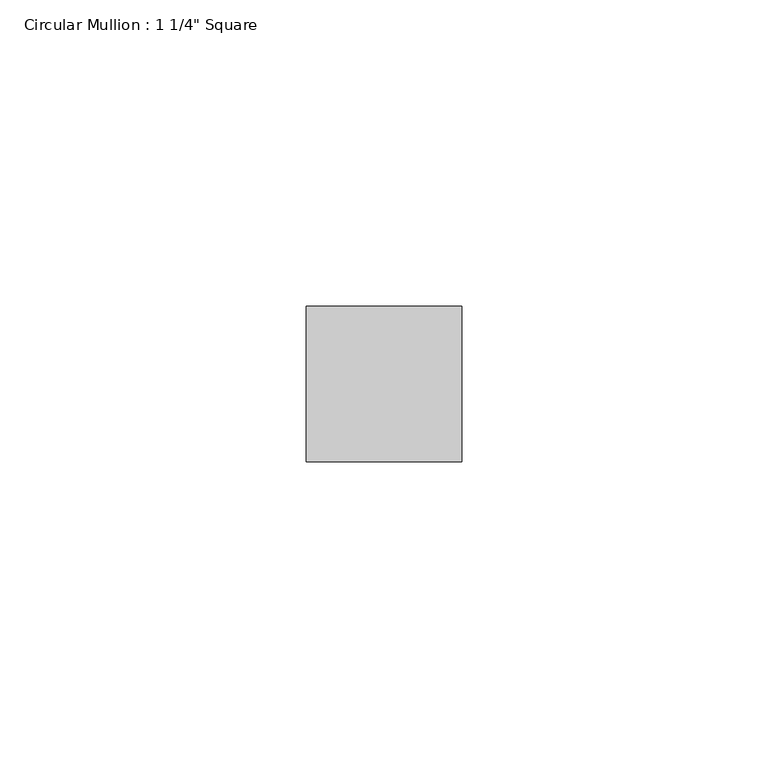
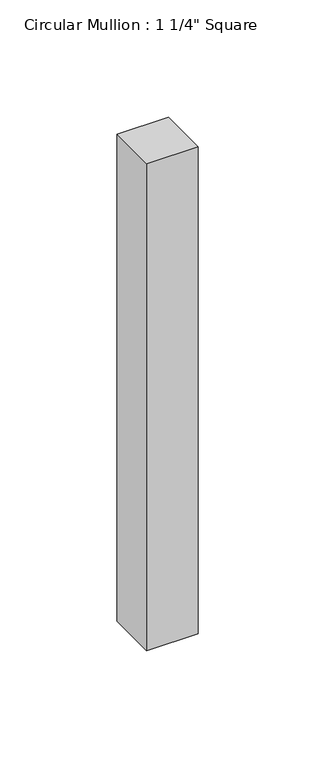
"""IFC4 building model written with IfcOpenShell, lengths in millimetres: member geometry."""

from ifc_helpers import new_model, si_unit, frame, origin, place, context, project, spatial, polyline, outline, extrude, source, transform, mapped, element, save


def member_27bd086b(model_context):
    return source(origin(), model_context, "Body", "SweptSolid", [
        extrude(outline(polyline([(12.7, 12.7), (12.7, -12.7), (-12.7, -12.7), (-12.7, 12.7), (12.7, 12.7)])), frame((0.0, 0.0, -253.9999997), z_axis=(0.0, 0.0, 1.0), x_axis=(1.0, 0.0, 0.0)), (0.0, 0.0, 1.0), 253.9999997),
    ])


if __name__ == "__main__":
    model = new_model("IFC4")
    model_context = context("Model", 3, world=origin())
    ifc_project = project(units=[si_unit("LENGTHUNIT", "METRE", prefix="MILLI")], contexts=[model_context])
    site = spatial("IfcSite", under=ifc_project)
    building = spatial("IfcBuilding", under=site)
    placement = place(None, origin())
    member_shape = member_27bd086b(model_context)
    element("IfcMember", 1, ObjectType="Circular Mullion : 1 1/4\" Square", at=placement, inside=building, context=model_context, shape_type="MappedRepresentation", body=[
        mapped(member_shape, transform((0.0, 0.0, 0.0), x_axis=(1.0, 0.0, 0.0), y_axis=(0.0, 1.0, 0.0), z_axis=(0.0, 0.0, 1.0))),
    ])
    save(model, "model.ifc")
